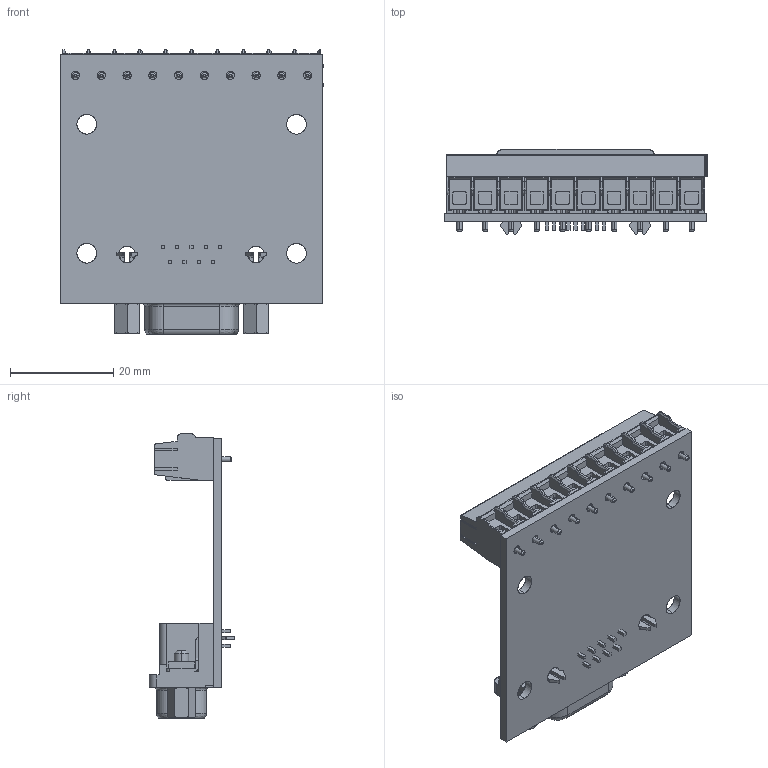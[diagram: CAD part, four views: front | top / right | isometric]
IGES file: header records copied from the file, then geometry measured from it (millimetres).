
Start section: SolidWorks IGES file using analytic representation for surfaces
Global section: file name: C:\Users\James Jarvis\Desktop\projects\screwBoards\APRS6590_DB9M_assembly.IGS; native system: SolidWorks 2012; preprocessor: SolidWorks 2012; author: James Jarvis; date: 160425.113839; units: inch
Bounding box: 50.97 x 16.6 x 55.2 mm (x, y, z)
Surface area: 11818.5 mm2 (no closed solid volume)
Topology: 0 solids, 0 shells, 1294 faces, 11874 edges, 11825 vertices
Faces by surface type: bspline 899, revolution 395
